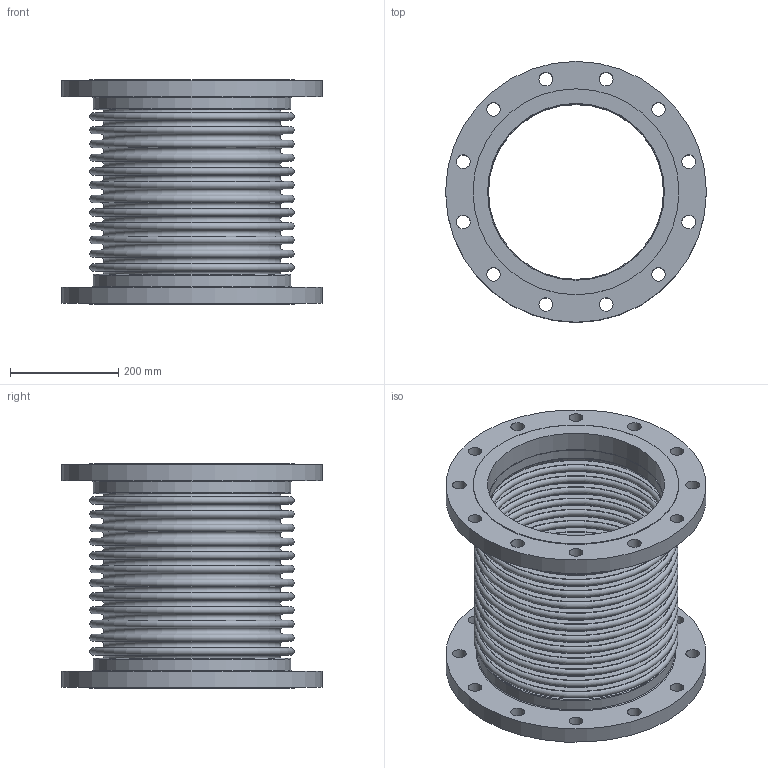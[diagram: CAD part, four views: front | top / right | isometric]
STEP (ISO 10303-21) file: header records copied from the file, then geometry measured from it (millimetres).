
FILE_DESCRIPTION(/* description */ ('EXPANSION JOINT,SINGLE, FLANGED ENDS,12 INCH NOMINAL','CAx-IF Rec.Pracs.---Representation and Presentation of Product Manufacturing Information (PMI)---4.0---2014-10-13'),/* implementation_level */ '2;1');
FILE_NAME(/* name */ 'US-12-12-85L-FLANGED ENDS.stp',/* time_stamp */ '2026-07-31T17:28:22-05:00',/* author */ ('Guadalupe'),/* organization */ (''),/* preprocessor_version */ 'ST-DEVELOPER v20.1',/* originating_system */ 'Autodesk Inventor 2026',/* authorisation */ '');
FILE_SCHEMA (('AP242_MANAGED_MODEL_BASED_3D_ENGINEERING_MIM_LF { 1 0 10303 442 2 1 4 }'));
Length unit declared in the file: inch
Products named in the file (3): 12-85L; 12-85L-02; 12-85L-01
Assembly tree (3 placements, depth 2):
  12-85L
    12-85L-02  x2
    12-85L-01
Bounding box: 482.6 x 482.6 x 415.54 mm (x, y, z)
Volume: 7520495.4 mm3; surface area: 2535597 mm2
Topology: 5 solids, 5 shells, 152 faces, 270 edges, 180 vertices
Faces by surface type: plane 62, torus 54, cylinder 36
Full cylindrical faces by diameter (mm): 25.4 x24, 323.85 x2, 325.679 x2, 327.152 x2, 365.252 x2, 381 x2, 482.6 x2
Entity records: 3450 total; most frequent: DIRECTION 710, CARTESIAN_POINT 513, ORIENTED_EDGE 432, AXIS2_PLACEMENT_3D 345, EDGE_CURVE 216, EDGE_LOOP 212, CIRCLE 196, VERTEX_POINT 144
